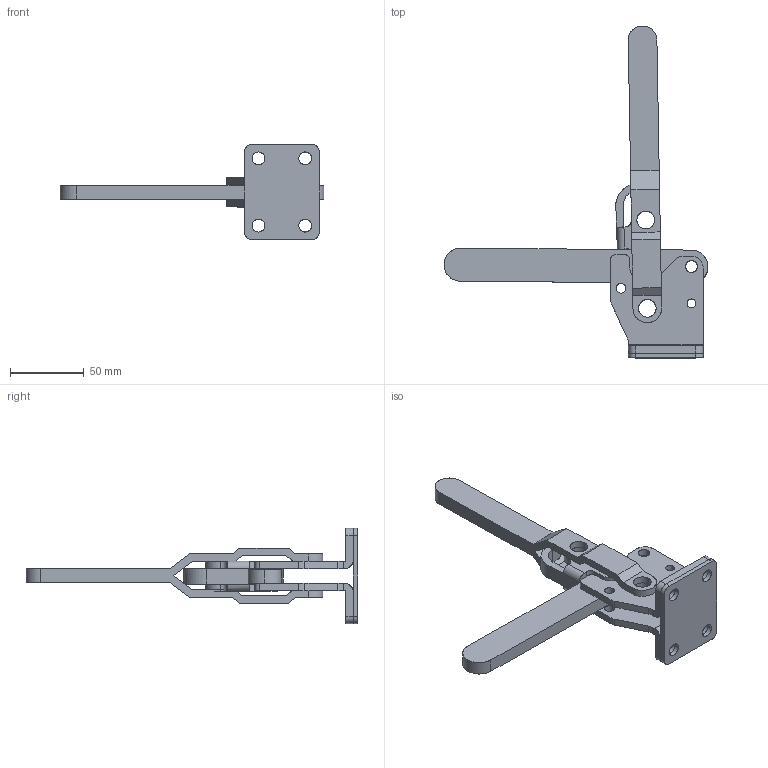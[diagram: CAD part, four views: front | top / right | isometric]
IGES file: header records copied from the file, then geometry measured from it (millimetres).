
Start section: Comment
Global section: file name: 10249.igs; native system:  By Spatial Corp.; preprocessor: XPlus PS/IGES 3.0; author: Author; organization: Title; date: 20050216.164104; units: inch
Bounding box: 179.44 x 225.62 x 64.7 mm (x, y, z)
Surface area: 63132.5 mm2 (no closed solid volume)
Topology: 0 solids, 0 shells, 184 faces, 1032 edges, 1032 vertices
Faces by surface type: revolution 105, extrusion 79
